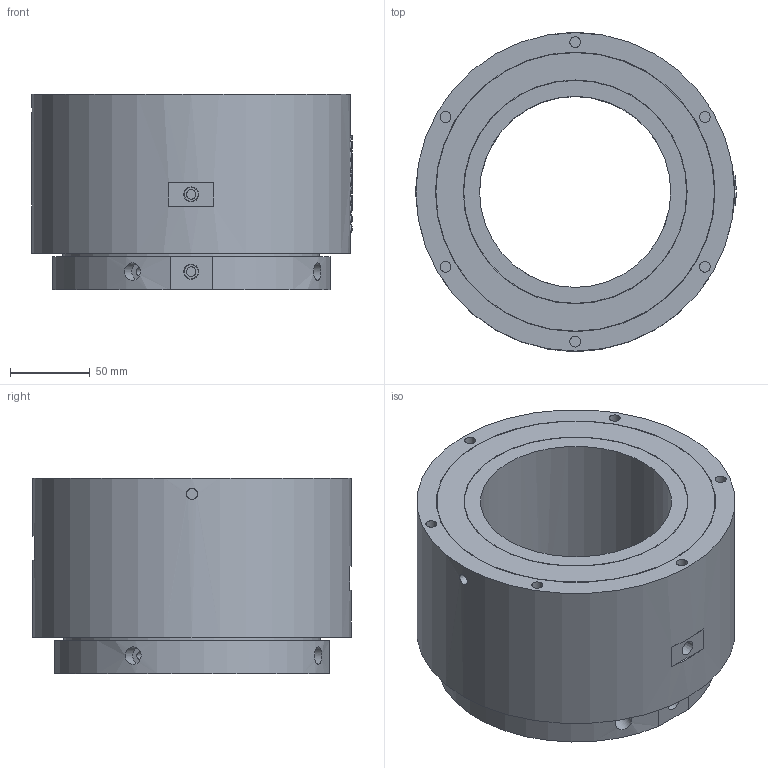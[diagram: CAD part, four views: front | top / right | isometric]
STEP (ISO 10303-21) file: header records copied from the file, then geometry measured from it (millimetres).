
FILE_DESCRIPTION(/* description */ (''),/* implementation_level */ '2;1');
FILE_NAME(/* name */ 'HQ0201D120.stp',/* time_stamp */ '2024-07-01T11:52:59+08:00',/* author */ (''),/* organization */ (''),/* preprocessor_version */ 'ST-DEVELOPER v16.7',/* originating_system */ 'SIEMENS PLM Software NX 12.0',/* authorisation */ '');
FILE_SCHEMA (('AUTOMOTIVE_DESIGN { 1 0 10303 214 3 1 1 1 }'));
Length unit declared in the file: millimetre
Products named in the file (1): 86130A48DBE8x8yt
Bounding box: 201 x 200 x 123 mm (x, y, z)
Volume: 2279612.1 mm3; surface area: 181996.1 mm2
Topology: 1 solids, 1 shells, 398 faces, 970 edges, 647 vertices
Faces by surface type: plane 161, extrusion 160, cylinder 46, bspline 27, cone 4
Full cylindrical faces by diameter (mm): 5 x4, 6 x4, 6.8 x10, 8.5 x2, 8.7 x2, 11 x4, 120 x1, 140 x1, 140.5 x1, 161 x1, 175 x1, 175.5 x1, 200 x1
Entity records: 17897 total; most frequent: CARTESIAN_POINT 9370, ORIENTED_EDGE 1844, DIRECTION 1252, EDGE_CURVE 922, VERTEX_POINT 644, B_SPLINE_CURVE_WITH_KNOTS 555, VECTOR 546, EDGE_LOOP 526
